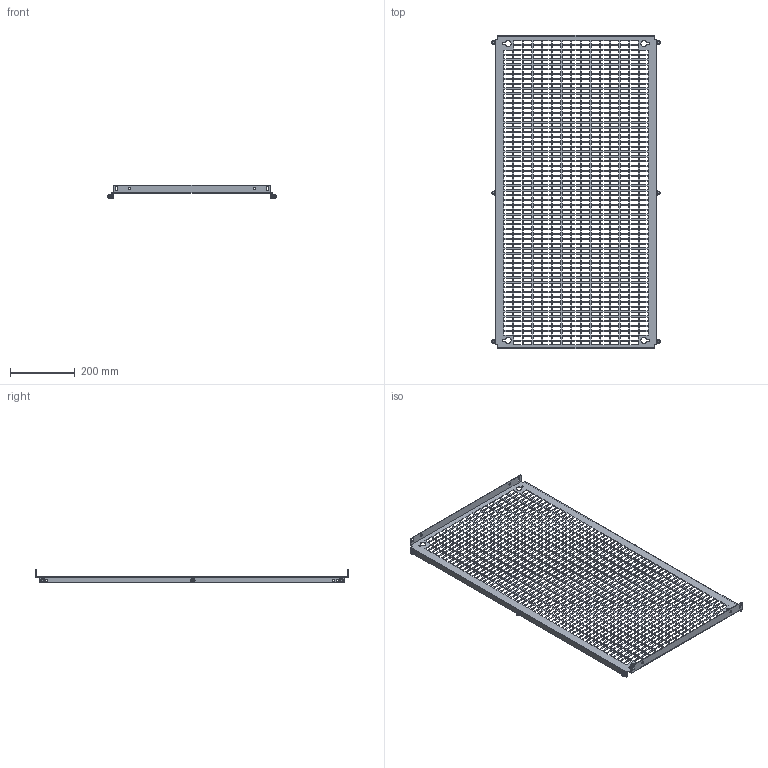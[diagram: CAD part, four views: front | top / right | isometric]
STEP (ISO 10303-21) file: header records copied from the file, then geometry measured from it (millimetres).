
FILE_DESCRIPTION(('Open CASCADE Model'),'2;1');
FILE_NAME('Open CASCADE Shape Model','2025-02-19T16:51:15',('Author'),( 'Open CASCADE'),'Open CASCADE STEP processor 7.8','Open CASCADE 7.8' ,'Unknown');
FILE_SCHEMA(('AUTOMOTIVE_DESIGN { 1 0 10303 214 1 1 1 1 }'));
Length unit declared in the file: millimetre
Products named in the file (4): Compound1; Solid1; Solid2; Solid3
Assembly tree (13 placements, depth 2):
  Compound1
    Solid1
    Solid2  x6
    Solid3  x6
Bounding box: 520 x 969 x 43 mm (x, y, z)
Volume: 547342.3 mm3; surface area: 692623.3 mm2
Topology: 13 solids, 13 shells, 4146 faces, 12182 edges, 8068 vertices
Faces by surface type: plane 3916, cone 102, bspline 72, cylinder 38, torus 18
Full cylindrical faces by diameter (mm): 5 x6, 6 x12, 7 x16
Entity records: 132340 total; most frequent: CARTESIAN_POINT 23851, ORIENTED_EDGE 23234, DIRECTION 19384, EDGE_CURVE 11617, LINE 11452, VECTOR 11452, VERTEX_POINT 7738, FACE_BOUND 5811
